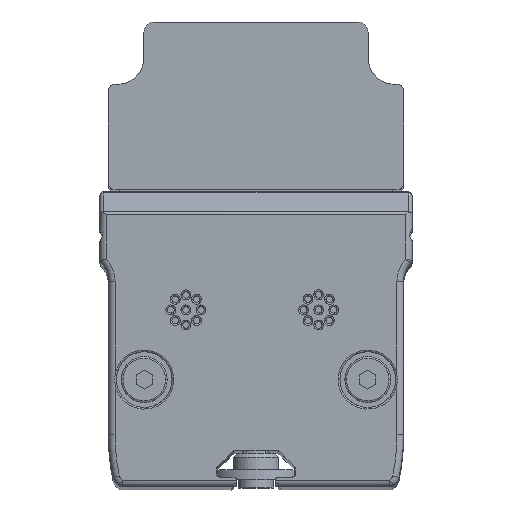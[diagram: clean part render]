
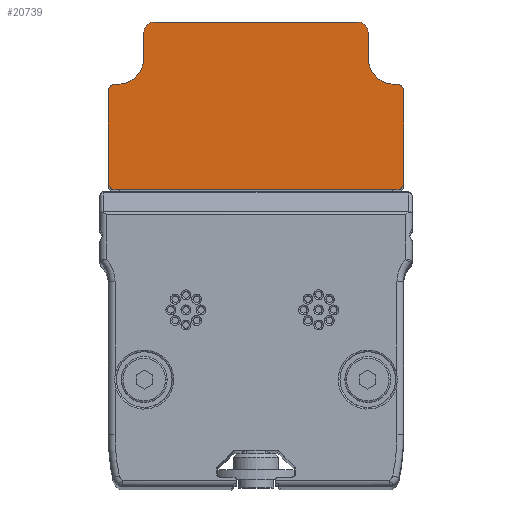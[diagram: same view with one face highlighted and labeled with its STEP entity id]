
A CAD part, top view. The second image highlights one B-rep face of the part: STEP entity #20739.
In plain terms, the highlighted planar face has unit normal (0, 0, 1).
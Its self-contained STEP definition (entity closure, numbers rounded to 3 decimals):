
#82 = CIRCLE ( 'NONE', #11156, 1.6 ) ;
#360 = DIRECTION ( 'NONE',  ( 1., 0., 0. ) ) ;
#374 = CARTESIAN_POINT ( 'NONE',  ( -21.5, 37.9, 254. ) ) ;
#1867 = DIRECTION ( 'NONE',  ( 0., 0., -1. ) ) ;
#2063 = CARTESIAN_POINT ( 'NONE',  ( 0., 0., 254. ) ) ;
#2605 = CIRCLE ( 'NONE', #12097, 1. ) ;
#2751 = CIRCLE ( 'NONE', #19635, 1.6 ) ;
#2888 = EDGE_CURVE ( 'NONE', #25572, #16805, #14016, .T. ) ;
#3477 = VECTOR ( 'NONE', #6149, 1000. ) ;
#3559 = ORIENTED_EDGE ( 'NONE', *, *, #4103, .T. ) ;
#3573 = DIRECTION ( 'NONE',  ( 0., 0., 1. ) ) ;
#3943 = CARTESIAN_POINT ( 'NONE',  ( 0., 38.9, 254. ) ) ;
#4096 = CARTESIAN_POINT ( 'NONE',  ( -22.5, 0., 254. ) ) ;
#4103 = EDGE_CURVE ( 'NONE', #5593, #18145, #2605, .T. ) ;
#4237 = CARTESIAN_POINT ( 'NONE',  ( 21.1, 42.9, 254. ) ) ;
#4329 = CARTESIAN_POINT ( 'NONE',  ( 0., 22.8, 254. ) ) ;
#4546 = LINE ( 'NONE', #24893, #16884 ) ;
#5149 = VECTOR ( 'NONE', #16635, 1000. ) ;
#5319 = DIRECTION ( 'NONE',  ( 0., 0., -1. ) ) ;
#5518 = EDGE_CURVE ( 'NONE', #22591, #16427, #22183, .T. ) ;
#5593 = VERTEX_POINT ( 'NONE', #10096 ) ;
#6149 = DIRECTION ( 'NONE',  ( 0., 1., 0. ) ) ;
#6191 = ORIENTED_EDGE ( 'NONE', *, *, #18424, .F. ) ;
#6261 = LINE ( 'NONE', #3943, #9099 ) ;
#7590 = EDGE_LOOP ( 'NONE', ( #14931, #3559, #10240, #22276, #13353, #30353, #19693, #8834, #32636, #13843, #6191, #31872, #29318, #13130, #19578, #20661 ) ) ;
#8364 = AXIS2_PLACEMENT_3D ( 'NONE', #23718, #16245, #18411 ) ;
#8549 = DIRECTION ( 'NONE',  ( 0., 0., -1. ) ) ;
#8727 = CARTESIAN_POINT ( 'NONE',  ( 17.1, 0., 254. ) ) ;
#8747 = CARTESIAN_POINT ( 'NONE',  ( -21.1, 38.9, 254. ) ) ;
#8834 = ORIENTED_EDGE ( 'NONE', *, *, #12214, .T. ) ;
#9099 = VECTOR ( 'NONE', #31882, 1000. ) ;
#9437 = CARTESIAN_POINT ( 'NONE',  ( 22.5, 0., 254. ) ) ;
#9504 = DIRECTION ( 'NONE',  ( 1., 0., 0. ) ) ;
#9954 = CARTESIAN_POINT ( 'NONE',  ( 17.1, 46.8, 254. ) ) ;
#10024 = AXIS2_PLACEMENT_3D ( 'NONE', #4237, #14307, #9504 ) ;
#10096 = CARTESIAN_POINT ( 'NONE',  ( -21.5, 38.9, 254. ) ) ;
#10240 = ORIENTED_EDGE ( 'NONE', *, *, #11770, .F. ) ;
#10803 = CARTESIAN_POINT ( 'NONE',  ( 0., 38.9, 254. ) ) ;
#10909 = CARTESIAN_POINT ( 'NONE',  ( -21.1, 42.9, 254. ) ) ;
#10962 = DIRECTION ( 'NONE',  ( -1., 0., 0. ) ) ;
#10981 = CIRCLE ( 'NONE', #23131, 4. ) ;
#11156 = AXIS2_PLACEMENT_3D ( 'NONE', #20800, #8549, #28722 ) ;
#11388 = VERTEX_POINT ( 'NONE', #16847 ) ;
#11770 = EDGE_CURVE ( 'NONE', #26661, #18145, #21634, .T. ) ;
#12097 = AXIS2_PLACEMENT_3D ( 'NONE', #374, #22692, #15400 ) ;
#12214 = EDGE_CURVE ( 'NONE', #19611, #22366, #16773, .T. ) ;
#12357 = EDGE_CURVE ( 'NONE', #22366, #11388, #28181, .T. ) ;
#12416 = AXIS2_PLACEMENT_3D ( 'NONE', #26240, #3573, #21421 ) ;
#13130 = ORIENTED_EDGE ( 'NONE', *, *, #21876, .F. ) ;
#13148 = EDGE_CURVE ( 'NONE', #26661, #16427, #23015, .T. ) ;
#13353 = ORIENTED_EDGE ( 'NONE', *, *, #5518, .F. ) ;
#13795 = CARTESIAN_POINT ( 'NONE',  ( -17.1, 42.9, 254. ) ) ;
#13843 = ORIENTED_EDGE ( 'NONE', *, *, #26000, .T. ) ;
#14016 = LINE ( 'NONE', #31253, #21231 ) ;
#14307 = DIRECTION ( 'NONE',  ( 0., 0., -1. ) ) ;
#14319 = CARTESIAN_POINT ( 'NONE',  ( 21.5, 38.9, 254. ) ) ;
#14391 = DIRECTION ( 'NONE',  ( -1., 0., 0. ) ) ;
#14456 = PLANE ( 'NONE',  #20643 ) ;
#14931 = ORIENTED_EDGE ( 'NONE', *, *, #23251, .F. ) ;
#14996 = EDGE_CURVE ( 'NONE', #16805, #15138, #10981, .T. ) ;
#15138 = VERTEX_POINT ( 'NONE', #8747 ) ;
#15274 = DIRECTION ( 'NONE',  ( 1., 0., 0. ) ) ;
#15400 = DIRECTION ( 'NONE',  ( 1., 0., 0. ) ) ;
#16245 = DIRECTION ( 'NONE',  ( 0., 0., 1. ) ) ;
#16369 = CARTESIAN_POINT ( 'NONE',  ( -17.1, 46.8, 254. ) ) ;
#16427 = VERTEX_POINT ( 'NONE', #19138 ) ;
#16504 = CARTESIAN_POINT ( 'NONE',  ( 22.5, 37.9, 254. ) ) ;
#16635 = DIRECTION ( 'NONE',  ( 0., 1., 0. ) ) ;
#16762 = VECTOR ( 'NONE', #27099, 1000. ) ;
#16773 = CIRCLE ( 'NONE', #29986, 1. ) ;
#16805 = VERTEX_POINT ( 'NONE', #13795 ) ;
#16847 = CARTESIAN_POINT ( 'NONE',  ( 21.1, 38.9, 254. ) ) ;
#16884 = VECTOR ( 'NONE', #32660, 1000. ) ;
#17978 = CARTESIAN_POINT ( 'NONE',  ( 15.5, 48.4, 254. ) ) ;
#18145 = VERTEX_POINT ( 'NONE', #31954 ) ;
#18214 = VERTEX_POINT ( 'NONE', #9954 ) ;
#18411 = DIRECTION ( 'NONE',  ( 1., 0., 0. ) ) ;
#18424 = EDGE_CURVE ( 'NONE', #18214, #30731, #31390, .T. ) ;
#18884 = EDGE_CURVE ( 'NONE', #22591, #22459, #19419, .T. ) ;
#19138 = CARTESIAN_POINT ( 'NONE',  ( -21.5, 22.8, 254. ) ) ;
#19184 = CARTESIAN_POINT ( 'NONE',  ( 17.1, 42.9, 254. ) ) ;
#19341 = VERTEX_POINT ( 'NONE', #21861 ) ;
#19387 = EDGE_CURVE ( 'NONE', #22459, #19611, #32098, .T. ) ;
#19419 = CIRCLE ( 'NONE', #8364, 1. ) ;
#19578 = ORIENTED_EDGE ( 'NONE', *, *, #2888, .T. ) ;
#19598 = FACE_OUTER_BOUND ( 'NONE', #7590, .T. ) ;
#19611 = VERTEX_POINT ( 'NONE', #16504 ) ;
#19635 = AXIS2_PLACEMENT_3D ( 'NONE', #29972, #1867, #22052 ) ;
#19693 = ORIENTED_EDGE ( 'NONE', *, *, #19387, .T. ) ;
#19753 = DIRECTION ( 'NONE',  ( -1., 0., 0. ) ) ;
#20643 = AXIS2_PLACEMENT_3D ( 'NONE', #2063, #32337, #19753 ) ;
#20661 = ORIENTED_EDGE ( 'NONE', *, *, #14996, .T. ) ;
#20739 = ADVANCED_FACE ( 'NONE', ( #19598 ), #14456, .T. ) ;
#20800 = CARTESIAN_POINT ( 'NONE',  ( 15.5, 46.8, 254. ) ) ;
#21231 = VECTOR ( 'NONE', #28620, 1000. ) ;
#21306 = VERTEX_POINT ( 'NONE', #17978 ) ;
#21350 = EDGE_CURVE ( 'NONE', #21306, #18214, #82, .T. ) ;
#21421 = DIRECTION ( 'NONE',  ( 1., 0., 0. ) ) ;
#21634 = LINE ( 'NONE', #4096, #5149 ) ;
#21861 = CARTESIAN_POINT ( 'NONE',  ( -15.5, 48.4, 254. ) ) ;
#21876 = EDGE_CURVE ( 'NONE', #25572, #19341, #2751, .T. ) ;
#22052 = DIRECTION ( 'NONE',  ( -1., 0., 0. ) ) ;
#22183 = LINE ( 'NONE', #4329, #24358 ) ;
#22276 = ORIENTED_EDGE ( 'NONE', *, *, #13148, .T. ) ;
#22366 = VERTEX_POINT ( 'NONE', #14319 ) ;
#22459 = VERTEX_POINT ( 'NONE', #24741 ) ;
#22591 = VERTEX_POINT ( 'NONE', #24384 ) ;
#22692 = DIRECTION ( 'NONE',  ( 0., 0., 1. ) ) ;
#23015 = CIRCLE ( 'NONE', #12416, 1. ) ;
#23131 = AXIS2_PLACEMENT_3D ( 'NONE', #10909, #5319, #360 ) ;
#23226 = CIRCLE ( 'NONE', #10024, 4. ) ;
#23251 = EDGE_CURVE ( 'NONE', #5593, #15138, #6261, .T. ) ;
#23647 = VECTOR ( 'NONE', #10962, 1000. ) ;
#23718 = CARTESIAN_POINT ( 'NONE',  ( 21.5, 23.8, 254. ) ) ;
#24358 = VECTOR ( 'NONE', #14391, 1000. ) ;
#24384 = CARTESIAN_POINT ( 'NONE',  ( 21.5, 22.8, 254. ) ) ;
#24741 = CARTESIAN_POINT ( 'NONE',  ( 22.5, 23.8, 254. ) ) ;
#24893 = CARTESIAN_POINT ( 'NONE',  ( 0., 48.4, 254. ) ) ;
#25388 = CARTESIAN_POINT ( 'NONE',  ( 21.5, 37.9, 254. ) ) ;
#25572 = VERTEX_POINT ( 'NONE', #16369 ) ;
#25965 = EDGE_CURVE ( 'NONE', #21306, #19341, #4546, .T. ) ;
#26000 = EDGE_CURVE ( 'NONE', #11388, #30731, #23226, .T. ) ;
#26119 = CARTESIAN_POINT ( 'NONE',  ( -22.5, 23.8, 254. ) ) ;
#26240 = CARTESIAN_POINT ( 'NONE',  ( -21.5, 23.8, 254. ) ) ;
#26661 = VERTEX_POINT ( 'NONE', #26119 ) ;
#27099 = DIRECTION ( 'NONE',  ( 0., -1., 0. ) ) ;
#28181 = LINE ( 'NONE', #10803, #23647 ) ;
#28620 = DIRECTION ( 'NONE',  ( 0., -1., 0. ) ) ;
#28722 = DIRECTION ( 'NONE',  ( -1., 0., 0. ) ) ;
#29318 = ORIENTED_EDGE ( 'NONE', *, *, #25965, .T. ) ;
#29972 = CARTESIAN_POINT ( 'NONE',  ( -15.5, 46.8, 254. ) ) ;
#29986 = AXIS2_PLACEMENT_3D ( 'NONE', #25388, #30167, #15274 ) ;
#30167 = DIRECTION ( 'NONE',  ( 0., 0., 1. ) ) ;
#30353 = ORIENTED_EDGE ( 'NONE', *, *, #18884, .T. ) ;
#30731 = VERTEX_POINT ( 'NONE', #19184 ) ;
#31253 = CARTESIAN_POINT ( 'NONE',  ( -17.1, 0., 254. ) ) ;
#31390 = LINE ( 'NONE', #8727, #16762 ) ;
#31872 = ORIENTED_EDGE ( 'NONE', *, *, #21350, .F. ) ;
#31882 = DIRECTION ( 'NONE',  ( 1., 0., 0. ) ) ;
#31954 = CARTESIAN_POINT ( 'NONE',  ( -22.5, 37.9, 254. ) ) ;
#32098 = LINE ( 'NONE', #9437, #3477 ) ;
#32337 = DIRECTION ( 'NONE',  ( 0., 0., 1. ) ) ;
#32636 = ORIENTED_EDGE ( 'NONE', *, *, #12357, .T. ) ;
#32660 = DIRECTION ( 'NONE',  ( -1., 0., 0. ) ) ;
